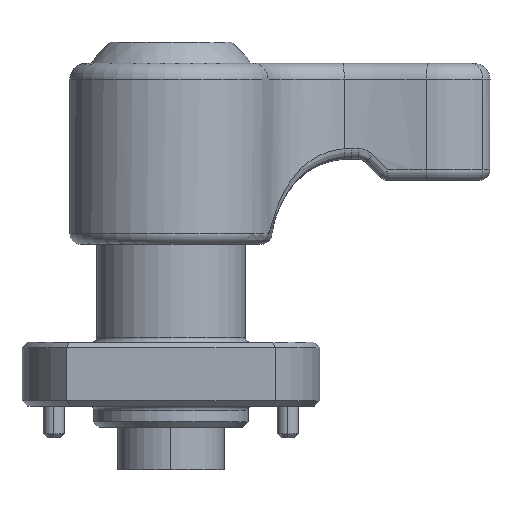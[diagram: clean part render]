
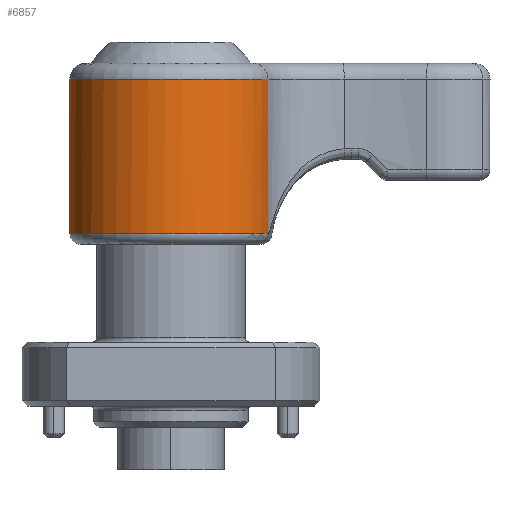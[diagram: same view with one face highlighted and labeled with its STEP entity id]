
A CAD part, front view. The second image highlights one B-rep face of the part: STEP entity #6857.
In plain terms, the highlighted cylindrical face has radius 9.5 mm (diameter 19 mm), a partial arc.
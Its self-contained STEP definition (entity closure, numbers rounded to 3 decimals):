
#119 = AXIS2_PLACEMENT_3D ( 'NONE', #657, #5331, #721 ) ;
#266 = AXIS2_PLACEMENT_3D ( 'NONE', #6354, #10053, #8236 ) ;
#657 = CARTESIAN_POINT ( 'NONE',  ( 0., 0., 16.214 ) ) ;
#721 = DIRECTION ( 'NONE',  ( 1., 0., 0. ) ) ;
#752 = CARTESIAN_POINT ( 'NONE',  ( -9.113, 2.685, 16.253 ) ) ;
#765 = CARTESIAN_POINT ( 'NONE',  ( -9.04, 2.921, 16.214 ) ) ;
#859 = CARTESIAN_POINT ( 'NONE',  ( -9.125, 2.642, 16.274 ) ) ;
#1597 = CARTESIAN_POINT ( 'NONE',  ( 9.5, 0., 16.214 ) ) ;
#1696 = CYLINDRICAL_SURFACE ( 'NONE', #266, 9.5 ) ;
#1750 = FACE_OUTER_BOUND ( 'NONE', #9248, .T. ) ;
#2249 = AXIS2_PLACEMENT_3D ( 'NONE', #7579, #4804, #5763 ) ;
#2496 = DIRECTION ( 'NONE',  ( 0., 0., 1. ) ) ;
#3299 = VERTEX_POINT ( 'NONE', #859 ) ;
#3559 = ORIENTED_EDGE ( 'NONE', *, *, #3663, .T. ) ;
#3663 = EDGE_CURVE ( 'NONE', #3299, #3737, #7212, .T. ) ;
#3737 = VERTEX_POINT ( 'NONE', #10059 ) ;
#4804 = DIRECTION ( 'NONE',  ( 0., 0., -1. ) ) ;
#4838 = VERTEX_POINT ( 'NONE', #1597 ) ;
#5331 = DIRECTION ( 'NONE',  ( 0., 0., 1. ) ) ;
#5350 = CIRCLE ( 'NONE', #119, 9.5 ) ;
#5425 = ORIENTED_EDGE ( 'NONE', *, *, #8705, .T. ) ;
#5539 = CARTESIAN_POINT ( 'NONE',  ( 9.5, 0., 34.214 ) ) ;
#5763 = DIRECTION ( 'NONE',  ( -1., 0., 0. ) ) ;
#5842 = ORIENTED_EDGE ( 'NONE', *, *, #8999, .T. ) ;
#6333 = CARTESIAN_POINT ( 'NONE',  ( -9.04, 2.921, 16.214 ) ) ;
#6354 = CARTESIAN_POINT ( 'NONE',  ( 0., 0., 34.214 ) ) ;
#6447 = CARTESIAN_POINT ( 'NONE',  ( 9.5, 0., 30.714 ) ) ;
#6474 = B_SPLINE_CURVE_WITH_KNOTS ( 'NONE', 3,
 ( #6333, #9070, #9854, #8100, #752, #11909 ),
 .UNSPECIFIED., .F., .F.,
 ( 4, 2, 4 ),
 ( 0., 0., 0. ),
 .UNSPECIFIED. ) ;
#6857 = ADVANCED_FACE ( 'NONE', ( #1750 ), #1696, .T. ) ;
#7212 = LINE ( 'NONE', #9034, #8953 ) ;
#7579 = CARTESIAN_POINT ( 'NONE',  ( 0., 0., 30.714 ) ) ;
#7590 = ORIENTED_EDGE ( 'NONE', *, *, #9925, .F. ) ;
#8100 = CARTESIAN_POINT ( 'NONE',  ( -9.099, 2.732, 16.237 ) ) ;
#8236 = DIRECTION ( 'NONE',  ( 1., 0., 0. ) ) ;
#8248 = VECTOR ( 'NONE', #8507, 1000. ) ;
#8321 = VERTEX_POINT ( 'NONE', #765 ) ;
#8507 = DIRECTION ( 'NONE',  ( 0., 0., 1. ) ) ;
#8705 = EDGE_CURVE ( 'NONE', #3737, #11055, #9789, .T. ) ;
#8953 = VECTOR ( 'NONE', #2496, 1000. ) ;
#8999 = EDGE_CURVE ( 'NONE', #4838, #8321, #5350, .T. ) ;
#9034 = CARTESIAN_POINT ( 'NONE',  ( -9.125, 2.642, 15.214 ) ) ;
#9070 = CARTESIAN_POINT ( 'NONE',  ( -9.055, 2.873, 16.214 ) ) ;
#9248 = EDGE_LOOP ( 'NONE', ( #7590, #5842, #11180, #3559, #5425 ) ) ;
#9789 = CIRCLE ( 'NONE', #2249, 9.5 ) ;
#9854 = CARTESIAN_POINT ( 'NONE',  ( -9.07, 2.826, 16.218 ) ) ;
#9925 = EDGE_CURVE ( 'NONE', #4838, #11055, #11051, .T. ) ;
#10053 = DIRECTION ( 'NONE',  ( 0., 0., 1. ) ) ;
#10059 = CARTESIAN_POINT ( 'NONE',  ( -9.125, 2.642, 30.714 ) ) ;
#11012 = EDGE_CURVE ( 'NONE', #8321, #3299, #6474, .T. ) ;
#11051 = LINE ( 'NONE', #5539, #8248 ) ;
#11055 = VERTEX_POINT ( 'NONE', #6447 ) ;
#11180 = ORIENTED_EDGE ( 'NONE', *, *, #11012, .T. ) ;
#11909 = CARTESIAN_POINT ( 'NONE',  ( -9.125, 2.642, 16.274 ) ) ;
